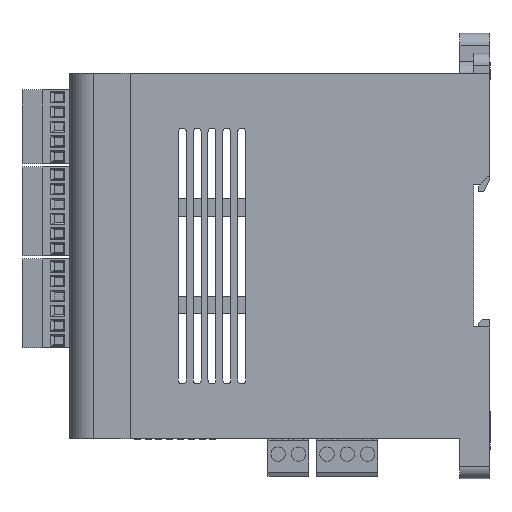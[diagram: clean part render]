
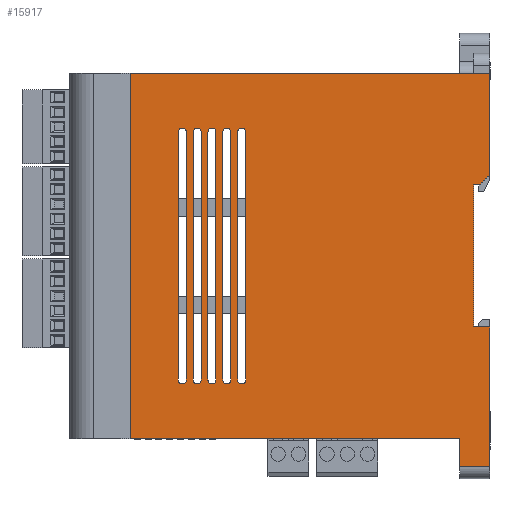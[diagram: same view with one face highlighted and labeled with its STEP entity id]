
A CAD part, left-side view. The second image highlights one B-rep face of the part: STEP entity #15917.
In plain terms, the highlighted planar face has unit normal (-1, 0, 0).
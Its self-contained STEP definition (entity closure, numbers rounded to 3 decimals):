
#5=DIRECTION('',(0.,0.,1.));
#6=VECTOR('',#5,25.4);
#7=CARTESIAN_POINT('',(-27.9,0.,20.25));
#8=LINE('',#7,#6);
#509=DIRECTION('',(0.,1.,0.));
#510=VECTOR('',#509,90.);
#511=CARTESIAN_POINT('',(-27.9,0.,45.65));
#512=LINE('',#511,#510);
#2685=DIRECTION('',(0.,0.,1.));
#2686=VECTOR('',#2685,91.3);
#2687=CARTESIAN_POINT('',(-27.9,90.,-45.65));
#2688=LINE('',#2687,#2686);
#4991=DIRECTION('',(0.,0.,-1.));
#4992=VECTOR('',#4991,7.);
#4993=CARTESIAN_POINT('',(-27.9,7.5,-45.65));
#4994=LINE('',#4993,#4992);
#5137=CARTESIAN_POINT('',(-27.9,76.9,31.));
#5138=DIRECTION('',(1.,0.,0.));
#5139=DIRECTION('',(0.,1.,0.));
#5140=AXIS2_PLACEMENT_3D('',#5137,#5138,#5139);
#5142=DIRECTION('',(0.,0.,1.));
#5143=VECTOR('',#5142,62.);
#5144=CARTESIAN_POINT('',(-27.9,77.9,-31.));
#5145=LINE('',#5144,#5143);
#5146=CARTESIAN_POINT('',(-27.9,76.9,-31.));
#5147=DIRECTION('',(1.,0.,0.));
#5148=DIRECTION('',(0.,-1.,0.));
#5149=AXIS2_PLACEMENT_3D('',#5146,#5147,#5148);
#5151=DIRECTION('',(0.,0.,-1.));
#5152=VECTOR('',#5151,62.);
#5153=CARTESIAN_POINT('',(-27.9,75.9,31.));
#5154=LINE('',#5153,#5152);
#5155=CARTESIAN_POINT('',(-27.9,73.2,31.));
#5156=DIRECTION('',(1.,0.,0.));
#5157=DIRECTION('',(0.,1.,0.));
#5158=AXIS2_PLACEMENT_3D('',#5155,#5156,#5157);
#5160=DIRECTION('',(0.,0.,1.));
#5161=VECTOR('',#5160,62.);
#5162=CARTESIAN_POINT('',(-27.9,74.2,-31.));
#5163=LINE('',#5162,#5161);
#5164=CARTESIAN_POINT('',(-27.9,73.2,-31.));
#5165=DIRECTION('',(1.,0.,0.));
#5166=DIRECTION('',(0.,-1.,0.));
#5167=AXIS2_PLACEMENT_3D('',#5164,#5165,#5166);
#5169=DIRECTION('',(0.,0.,-1.));
#5170=VECTOR('',#5169,62.);
#5171=CARTESIAN_POINT('',(-27.9,72.2,31.));
#5172=LINE('',#5171,#5170);
#5173=CARTESIAN_POINT('',(-27.9,69.5,31.));
#5174=DIRECTION('',(1.,0.,0.));
#5175=DIRECTION('',(0.,1.,0.));
#5176=AXIS2_PLACEMENT_3D('',#5173,#5174,#5175);
#5178=DIRECTION('',(0.,0.,1.));
#5179=VECTOR('',#5178,62.);
#5180=CARTESIAN_POINT('',(-27.9,70.5,-31.));
#5181=LINE('',#5180,#5179);
#5182=CARTESIAN_POINT('',(-27.9,69.5,-31.));
#5183=DIRECTION('',(1.,0.,0.));
#5184=DIRECTION('',(0.,-1.,0.));
#5185=AXIS2_PLACEMENT_3D('',#5182,#5183,#5184);
#5187=DIRECTION('',(0.,0.,-1.));
#5188=VECTOR('',#5187,62.);
#5189=CARTESIAN_POINT('',(-27.9,68.5,31.));
#5190=LINE('',#5189,#5188);
#5191=CARTESIAN_POINT('',(-27.9,65.8,31.));
#5192=DIRECTION('',(1.,0.,0.));
#5193=DIRECTION('',(0.,1.,0.));
#5194=AXIS2_PLACEMENT_3D('',#5191,#5192,#5193);
#5196=DIRECTION('',(0.,0.,1.));
#5197=VECTOR('',#5196,62.);
#5198=CARTESIAN_POINT('',(-27.9,66.8,-31.));
#5199=LINE('',#5198,#5197);
#5200=CARTESIAN_POINT('',(-27.9,65.8,-31.));
#5201=DIRECTION('',(1.,0.,0.));
#5202=DIRECTION('',(0.,-1.,0.));
#5203=AXIS2_PLACEMENT_3D('',#5200,#5201,#5202);
#5205=DIRECTION('',(0.,0.,-1.));
#5206=VECTOR('',#5205,62.);
#5207=CARTESIAN_POINT('',(-27.9,64.8,31.));
#5208=LINE('',#5207,#5206);
#5209=CARTESIAN_POINT('',(-27.9,62.1,31.));
#5210=DIRECTION('',(1.,0.,0.));
#5211=DIRECTION('',(0.,1.,0.));
#5212=AXIS2_PLACEMENT_3D('',#5209,#5210,#5211);
#5214=DIRECTION('',(0.,0.,1.));
#5215=VECTOR('',#5214,62.);
#5216=CARTESIAN_POINT('',(-27.9,63.1,-31.));
#5217=LINE('',#5216,#5215);
#5218=CARTESIAN_POINT('',(-27.9,62.1,-31.));
#5219=DIRECTION('',(1.,0.,0.));
#5220=DIRECTION('',(0.,-1.,0.));
#5221=AXIS2_PLACEMENT_3D('',#5218,#5219,#5220);
#5223=DIRECTION('',(0.,0.,-1.));
#5224=VECTOR('',#5223,62.);
#5225=CARTESIAN_POINT('',(-27.9,61.1,31.));
#5226=LINE('',#5225,#5224);
#5227=DIRECTION('',(0.,1.,0.));
#5228=VECTOR('',#5227,7.5);
#5229=CARTESIAN_POINT('',(-27.9,0.,-52.65));
#5230=LINE('',#5229,#5228);
#5231=DIRECTION('',(0.,1.,0.));
#5232=VECTOR('',#5231,82.5);
#5233=CARTESIAN_POINT('',(-27.9,7.5,-45.65));
#5234=LINE('',#5233,#5232);
#5235=DIRECTION('',(0.,-0.707,0.707));
#5236=VECTOR('',#5235,3.536);
#5237=CARTESIAN_POINT('',(-27.9,2.5,17.75));
#5238=LINE('',#5237,#5236);
#5239=DIRECTION('',(0.,1.,0.));
#5240=VECTOR('',#5239,1.6);
#5241=CARTESIAN_POINT('',(-27.9,2.5,17.75));
#5242=LINE('',#5241,#5240);
#5243=DIRECTION('',(0.,0.,1.));
#5244=VECTOR('',#5243,35.5);
#5245=CARTESIAN_POINT('',(-27.9,4.1,-17.75));
#5246=LINE('',#5245,#5244);
#5247=DIRECTION('',(0.,1.,0.));
#5248=VECTOR('',#5247,4.1);
#5249=CARTESIAN_POINT('',(-27.9,0.,-17.75));
#5250=LINE('',#5249,#5248);
#5251=DIRECTION('',(0.,0.,-1.));
#5252=VECTOR('',#5251,34.9);
#5253=CARTESIAN_POINT('',(-27.9,0.,-17.75));
#5254=LINE('',#5253,#5252);
#6985=CARTESIAN_POINT('',(-27.9,90.,-45.65));
#6986=CARTESIAN_POINT('',(-27.9,90.,45.65));
#6987=VERTEX_POINT('',#6985);
#6988=VERTEX_POINT('',#6986);
#6993=CARTESIAN_POINT('',(-27.9,0.,45.65));
#6994=VERTEX_POINT('',#6993);
#6997=CARTESIAN_POINT('',(-27.9,0.,-17.75));
#6998=CARTESIAN_POINT('',(-27.9,4.1,-17.75));
#6999=VERTEX_POINT('',#6997);
#7000=VERTEX_POINT('',#6998);
#7001=CARTESIAN_POINT('',(-27.9,4.1,17.75));
#7002=VERTEX_POINT('',#7001);
#7041=CARTESIAN_POINT('',(-27.9,7.5,-45.65));
#7042=VERTEX_POINT('',#7041);
#7161=CARTESIAN_POINT('',(-27.9,2.5,17.75));
#7162=VERTEX_POINT('',#7161);
#7163=CARTESIAN_POINT('',(-27.9,0.,20.25));
#7164=VERTEX_POINT('',#7163);
#8005=CARTESIAN_POINT('',(-27.9,77.9,31.));
#8006=CARTESIAN_POINT('',(-27.9,75.9,31.));
#8007=VERTEX_POINT('',#8005);
#8008=VERTEX_POINT('',#8006);
#8009=CARTESIAN_POINT('',(-27.9,75.9,-31.));
#8010=VERTEX_POINT('',#8009);
#8011=CARTESIAN_POINT('',(-27.9,77.9,-31.));
#8012=VERTEX_POINT('',#8011);
#8037=CARTESIAN_POINT('',(-27.9,74.2,31.));
#8038=CARTESIAN_POINT('',(-27.9,72.2,31.));
#8039=VERTEX_POINT('',#8037);
#8040=VERTEX_POINT('',#8038);
#8041=CARTESIAN_POINT('',(-27.9,72.2,-31.));
#8042=VERTEX_POINT('',#8041);
#8043=CARTESIAN_POINT('',(-27.9,74.2,-31.));
#8044=VERTEX_POINT('',#8043);
#8069=CARTESIAN_POINT('',(-27.9,70.5,31.));
#8070=CARTESIAN_POINT('',(-27.9,68.5,31.));
#8071=VERTEX_POINT('',#8069);
#8072=VERTEX_POINT('',#8070);
#8073=CARTESIAN_POINT('',(-27.9,68.5,-31.));
#8074=VERTEX_POINT('',#8073);
#8075=CARTESIAN_POINT('',(-27.9,70.5,-31.));
#8076=VERTEX_POINT('',#8075);
#8101=CARTESIAN_POINT('',(-27.9,66.8,31.));
#8102=CARTESIAN_POINT('',(-27.9,64.8,31.));
#8103=VERTEX_POINT('',#8101);
#8104=VERTEX_POINT('',#8102);
#8105=CARTESIAN_POINT('',(-27.9,64.8,-31.));
#8106=VERTEX_POINT('',#8105);
#8107=CARTESIAN_POINT('',(-27.9,66.8,-31.));
#8108=VERTEX_POINT('',#8107);
#8133=CARTESIAN_POINT('',(-27.9,63.1,31.));
#8134=CARTESIAN_POINT('',(-27.9,61.1,31.));
#8135=VERTEX_POINT('',#8133);
#8136=VERTEX_POINT('',#8134);
#8137=CARTESIAN_POINT('',(-27.9,61.1,-31.));
#8138=VERTEX_POINT('',#8137);
#8139=CARTESIAN_POINT('',(-27.9,63.1,-31.));
#8140=VERTEX_POINT('',#8139);
#9230=CARTESIAN_POINT('',(-27.9,7.5,-52.65));
#9232=VERTEX_POINT('',#9230);
#9233=CARTESIAN_POINT('',(-27.9,0.,-52.65));
#9234=VERTEX_POINT('',#9233);
#15846=CARTESIAN_POINT('',(-27.9,0.,-45.65));
#15847=DIRECTION('',(-1.,0.,0.));
#15848=DIRECTION('',(0.,0.,1.));
#15849=AXIS2_PLACEMENT_3D('',#15846,#15847,#15848);
#15850=PLANE('',#15849);
#15852=ORIENTED_EDGE('',*,*,#15851,.T.);
#15853=ORIENTED_EDGE('',*,*,#15665,.F.);
#15854=ORIENTED_EDGE('',*,*,#13860,.T.);
#15855=ORIENTED_EDGE('',*,*,#12657,.T.);
#15856=ORIENTED_EDGE('',*,*,#9414,.F.);
#15857=ORIENTED_EDGE('',*,*,#9252,.F.);
#15858=ORIENTED_EDGE('',*,*,#9350,.F.);
#15860=ORIENTED_EDGE('',*,*,#15859,.T.);
#15862=ORIENTED_EDGE('',*,*,#15861,.F.);
#15864=ORIENTED_EDGE('',*,*,#15863,.F.);
#15865=ORIENTED_EDGE('',*,*,#9308,.T.);
#15866=EDGE_LOOP('',(#15852,#15853,#15854,#15855,#15856,#15857,#15858,#15860,
#15862,#15864,#15865));
#15867=FACE_OUTER_BOUND('',#15866,.F.);
#15869=ORIENTED_EDGE('',*,*,#15868,.F.);
#15871=ORIENTED_EDGE('',*,*,#15870,.F.);
#15873=ORIENTED_EDGE('',*,*,#15872,.F.);
#15875=ORIENTED_EDGE('',*,*,#15874,.F.);
#15876=EDGE_LOOP('',(#15869,#15871,#15873,#15875));
#15877=FACE_BOUND('',#15876,.F.);
#15879=ORIENTED_EDGE('',*,*,#15878,.F.);
#15881=ORIENTED_EDGE('',*,*,#15880,.F.);
#15883=ORIENTED_EDGE('',*,*,#15882,.F.);
#15885=ORIENTED_EDGE('',*,*,#15884,.F.);
#15886=EDGE_LOOP('',(#15879,#15881,#15883,#15885));
#15887=FACE_BOUND('',#15886,.F.);
#15889=ORIENTED_EDGE('',*,*,#15888,.F.);
#15891=ORIENTED_EDGE('',*,*,#15890,.F.);
#15893=ORIENTED_EDGE('',*,*,#15892,.F.);
#15895=ORIENTED_EDGE('',*,*,#15894,.F.);
#15896=EDGE_LOOP('',(#15889,#15891,#15893,#15895));
#15897=FACE_BOUND('',#15896,.F.);
#15899=ORIENTED_EDGE('',*,*,#15898,.F.);
#15901=ORIENTED_EDGE('',*,*,#15900,.F.);
#15903=ORIENTED_EDGE('',*,*,#15902,.F.);
#15905=ORIENTED_EDGE('',*,*,#15904,.F.);
#15906=EDGE_LOOP('',(#15899,#15901,#15903,#15905));
#15907=FACE_BOUND('',#15906,.F.);
#15908=ORIENTED_EDGE('',*,*,#15820,.F.);
#15910=ORIENTED_EDGE('',*,*,#15909,.F.);
#15912=ORIENTED_EDGE('',*,*,#15911,.F.);
#15914=ORIENTED_EDGE('',*,*,#15913,.F.);
#15915=EDGE_LOOP('',(#15908,#15910,#15912,#15914));
#15916=FACE_BOUND('',#15915,.F.);
#15917=ADVANCED_FACE('',(#15867,#15877,#15887,#15897,#15907,#15916),#15850,.T.);
#5141=CIRCLE('',#5140,1.);
#5150=CIRCLE('',#5149,1.);
#5159=CIRCLE('',#5158,1.);
#5168=CIRCLE('',#5167,1.);
#5177=CIRCLE('',#5176,1.);
#5186=CIRCLE('',#5185,1.);
#5195=CIRCLE('',#5194,1.);
#5204=CIRCLE('',#5203,1.);
#5213=CIRCLE('',#5212,1.);
#5222=CIRCLE('',#5221,1.);
#9252=EDGE_CURVE('',#7164,#6994,#8,.T.);
#9308=EDGE_CURVE('',#6999,#9234,#5254,.T.);
#9350=EDGE_CURVE('',#7162,#7164,#5238,.T.);
#9414=EDGE_CURVE('',#6994,#6988,#512,.T.);
#12657=EDGE_CURVE('',#6987,#6988,#2688,.T.);
#13860=EDGE_CURVE('',#7042,#6987,#5234,.T.);
#15665=EDGE_CURVE('',#7042,#9232,#4994,.T.);
#15820=EDGE_CURVE('',#8007,#8008,#5141,.T.);
#15851=EDGE_CURVE('',#9234,#9232,#5230,.T.);
#15859=EDGE_CURVE('',#7162,#7002,#5242,.T.);
#15861=EDGE_CURVE('',#7000,#7002,#5246,.T.);
#15863=EDGE_CURVE('',#6999,#7000,#5250,.T.);
#15868=EDGE_CURVE('',#8039,#8040,#5159,.T.);
#15870=EDGE_CURVE('',#8044,#8039,#5163,.T.);
#15872=EDGE_CURVE('',#8042,#8044,#5168,.T.);
#15874=EDGE_CURVE('',#8040,#8042,#5172,.T.);
#15878=EDGE_CURVE('',#8071,#8072,#5177,.T.);
#15880=EDGE_CURVE('',#8076,#8071,#5181,.T.);
#15882=EDGE_CURVE('',#8074,#8076,#5186,.T.);
#15884=EDGE_CURVE('',#8072,#8074,#5190,.T.);
#15888=EDGE_CURVE('',#8103,#8104,#5195,.T.);
#15890=EDGE_CURVE('',#8108,#8103,#5199,.T.);
#15892=EDGE_CURVE('',#8106,#8108,#5204,.T.);
#15894=EDGE_CURVE('',#8104,#8106,#5208,.T.);
#15898=EDGE_CURVE('',#8135,#8136,#5213,.T.);
#15900=EDGE_CURVE('',#8140,#8135,#5217,.T.);
#15902=EDGE_CURVE('',#8138,#8140,#5222,.T.);
#15904=EDGE_CURVE('',#8136,#8138,#5226,.T.);
#15909=EDGE_CURVE('',#8012,#8007,#5145,.T.);
#15911=EDGE_CURVE('',#8010,#8012,#5150,.T.);
#15913=EDGE_CURVE('',#8008,#8010,#5154,.T.);
